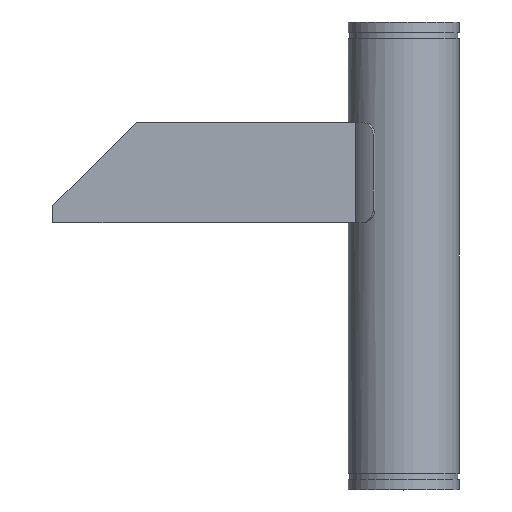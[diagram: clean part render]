
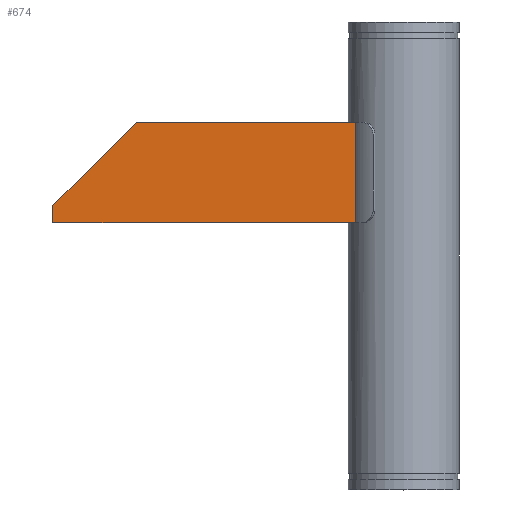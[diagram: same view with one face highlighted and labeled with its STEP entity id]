
A CAD part, top view. The second image highlights one B-rep face of the part: STEP entity #674.
In plain terms, the highlighted planar face has unit normal (0, 0, 1).
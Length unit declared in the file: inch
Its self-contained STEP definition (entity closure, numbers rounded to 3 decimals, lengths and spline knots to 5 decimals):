
#28=PLANE('',#746);
#93=FACE_OUTER_BOUND('',#127,.T.);
#127=EDGE_LOOP('',(#511,#512,#513,#514,#515));
#164=LINE('',#1139,#214);
#181=LINE('',#1197,#231);
#186=LINE('',#1229,#236);
#187=LINE('',#1231,#237);
#188=LINE('',#1232,#238);
#214=VECTOR('',#813,0.3937);
#231=VECTOR('',#848,0.3937);
#236=VECTOR('',#885,0.3937);
#237=VECTOR('',#886,0.3937);
#238=VECTOR('',#887,0.3937);
#278=VERTEX_POINT('',#1136);
#279=VERTEX_POINT('',#1138);
#293=VERTEX_POINT('',#1195);
#304=VERTEX_POINT('',#1228);
#305=VERTEX_POINT('',#1230);
#348=EDGE_CURVE('',#279,#278,#164,.T.);
#369=EDGE_CURVE('',#293,#278,#181,.T.);
#386=EDGE_CURVE('',#293,#304,#186,.T.);
#387=EDGE_CURVE('',#305,#304,#187,.T.);
#388=EDGE_CURVE('',#279,#305,#188,.T.);
#511=ORIENTED_EDGE('',*,*,#348,.T.);
#512=ORIENTED_EDGE('',*,*,#369,.F.);
#513=ORIENTED_EDGE('',*,*,#386,.T.);
#514=ORIENTED_EDGE('',*,*,#387,.F.);
#515=ORIENTED_EDGE('',*,*,#388,.F.);
#674=ADVANCED_FACE('',(#93),#28,.T.);
#746=AXIS2_PLACEMENT_3D('',#1227,#883,#884);
#813=DIRECTION('',(0.,1.,0.));
#848=DIRECTION('',(1.,0.,0.));
#883=DIRECTION('center_axis',(0.,0.,
1.));
#884=DIRECTION('ref_axis',(1.,0.,0.));
#885=DIRECTION('',(-0.707,-0.707,0.));
#886=DIRECTION('',(0.,1.,0.));
#887=DIRECTION('',(-1.,0.,0.));
#1136=CARTESIAN_POINT('',(-2.8875,8.,2.));
#1138=CARTESIAN_POINT('',(-2.8875,2.,2.));
#1139=CARTESIAN_POINT('',(-2.8875,2.,2.));
#1195=CARTESIAN_POINT('',(-16.,8.,2.));
#1197=CARTESIAN_POINT('',(0.,8.,2.));
#1227=CARTESIAN_POINT('Origin',(-21.,2.,2.));
#1228=CARTESIAN_POINT('',(-21.,3.,2.));
#1229=CARTESIAN_POINT('',(-21.25,2.75,2.));
#1230=CARTESIAN_POINT('',(-21.,2.,2.));
#1231=CARTESIAN_POINT('',(-21.,2.,2.));
#1232=CARTESIAN_POINT('',(0.,2.,2.));
